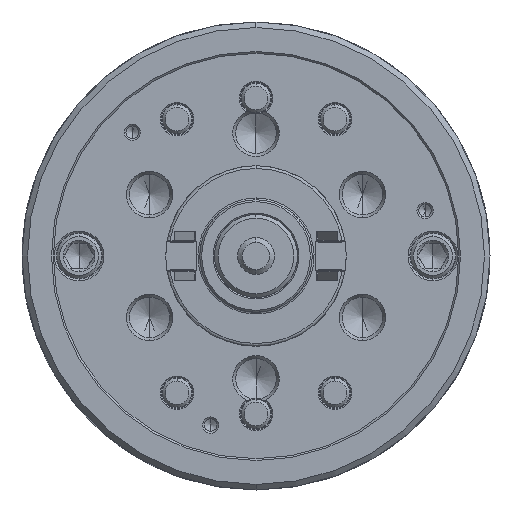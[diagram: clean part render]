
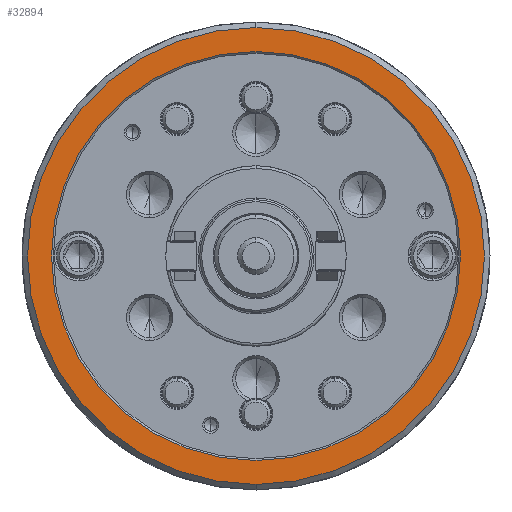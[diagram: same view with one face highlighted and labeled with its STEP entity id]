
A CAD part, left-side view. The second image highlights one B-rep face of the part: STEP entity #32894.
In plain terms, the highlighted planar face has unit normal (-1, 0, 0).
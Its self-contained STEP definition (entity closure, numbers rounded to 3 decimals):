
#9561 = ORIENTED_EDGE ( 'NONE', *, *, #49025, .T. ) ;
#9644 = CARTESIAN_POINT ( 'NONE',  ( -89., 0., 124. ) ) ;
#10977 = CIRCLE ( 'NONE', #79760, 124. ) ;
#11097 = VERTEX_POINT ( 'NONE', #96400 ) ;
#12300 = AXIS2_PLACEMENT_3D ( 'NONE', #12650, #92091, #92598 ) ;
#12302 = CARTESIAN_POINT ( 'NONE',  ( -89., 0., -124. ) ) ;
#12650 = CARTESIAN_POINT ( 'NONE',  ( -89., 0., 0. ) ) ;
#18593 = EDGE_CURVE ( 'NONE', #24328, #45818, #10977, .T. ) ;
#20030 = DIRECTION ( 'NONE',  ( 0., 0., -1. ) ) ;
#23125 = CARTESIAN_POINT ( 'NONE',  ( -89., 0., 111. ) ) ;
#24328 = VERTEX_POINT ( 'NONE', #9644 ) ;
#26098 = EDGE_LOOP ( 'NONE', ( #71180, #9561 ) ) ;
#27217 = AXIS2_PLACEMENT_3D ( 'NONE', #96951, #98956, #20030 ) ;
#32536 = DIRECTION ( 'NONE',  ( 1., 0., 0. ) ) ;
#32894 = ADVANCED_FACE ( 'NONE', ( #42023, #59363 ), #35854, .F. ) ;
#34844 = DIRECTION ( 'NONE',  ( 1., 0., 0. ) ) ;
#35854 = PLANE ( 'NONE',  #52949 ) ;
#42023 = FACE_OUTER_BOUND ( 'NONE', #78271, .T. ) ;
#45818 = VERTEX_POINT ( 'NONE', #12302 ) ;
#49025 = EDGE_CURVE ( 'NONE', #11097, #70222, #89417, .T. ) ;
#49042 = CIRCLE ( 'NONE', #80174, 124. ) ;
#52949 = AXIS2_PLACEMENT_3D ( 'NONE', #82514, #34844, #81005 ) ;
#55189 = DIRECTION ( 'NONE',  ( 1., 0., 0. ) ) ;
#57517 = CARTESIAN_POINT ( 'NONE',  ( -89., 0., 0. ) ) ;
#59363 = FACE_BOUND ( 'NONE', #26098, .T. ) ;
#59968 = EDGE_CURVE ( 'NONE', #70222, #11097, #82694, .T. ) ;
#62092 = ORIENTED_EDGE ( 'NONE', *, *, #18593, .F. ) ;
#70222 = VERTEX_POINT ( 'NONE', #23125 ) ;
#71180 = ORIENTED_EDGE ( 'NONE', *, *, #59968, .T. ) ;
#72082 = DIRECTION ( 'NONE',  ( 0., 0., -1. ) ) ;
#74368 = EDGE_CURVE ( 'NONE', #45818, #24328, #49042, .T. ) ;
#78271 = EDGE_LOOP ( 'NONE', ( #91214, #62092 ) ) ;
#79760 = AXIS2_PLACEMENT_3D ( 'NONE', #57517, #32536, #95549 ) ;
#80174 = AXIS2_PLACEMENT_3D ( 'NONE', #95701, #55189, #72082 ) ;
#81005 = DIRECTION ( 'NONE',  ( 0., 0., -1. ) ) ;
#82514 = CARTESIAN_POINT ( 'NONE',  ( -89., -124., 0. ) ) ;
#82694 = CIRCLE ( 'NONE', #12300, 111. ) ;
#89417 = CIRCLE ( 'NONE', #27217, 111. ) ;
#91214 = ORIENTED_EDGE ( 'NONE', *, *, #74368, .F. ) ;
#92091 = DIRECTION ( 'NONE',  ( 1., 0., 0. ) ) ;
#92598 = DIRECTION ( 'NONE',  ( 0., 0., -1. ) ) ;
#95549 = DIRECTION ( 'NONE',  ( 0., 0., -1. ) ) ;
#95701 = CARTESIAN_POINT ( 'NONE',  ( -89., 0., 0. ) ) ;
#96400 = CARTESIAN_POINT ( 'NONE',  ( -89., 0., -111. ) ) ;
#96951 = CARTESIAN_POINT ( 'NONE',  ( -89., 0., 0. ) ) ;
#98956 = DIRECTION ( 'NONE',  ( 1., 0., 0. ) ) ;
